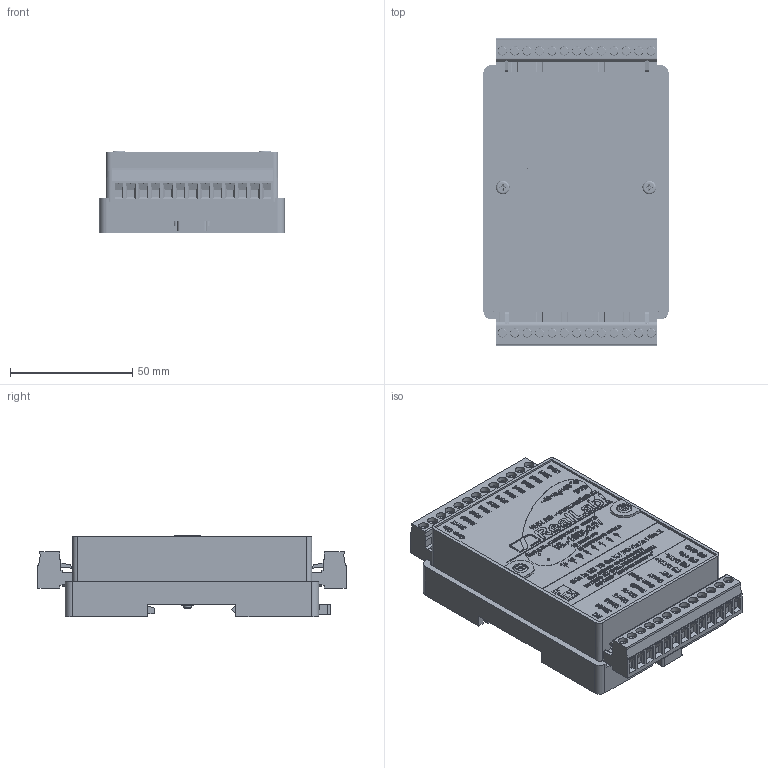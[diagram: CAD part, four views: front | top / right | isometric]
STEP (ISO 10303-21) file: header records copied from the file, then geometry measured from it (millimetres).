
FILE_DESCRIPTION(('STEP AP214'), '1');
FILE_NAME('NL-16DI-24V', '', ('UNSPECIFIED'), ('UNSPECIFIED'), 'C3D Converter', 'C3D Toolkit', '');
FILE_SCHEMA(('AUTOMOTIVE_DESIGN { 1 0 10303 214 3 1 1}'));
Length unit declared in the file: millimetre
Bounding box: 75.8 x 126.21 x 33.5 mm (x, y, z)
Volume: 85068.8 mm3; surface area: 90260.2 mm2
Topology: 2 solids, 2 shells, 8126 faces, 22751 edges, 15269 vertices
Faces by surface type: plane 4005, extrusion 3430, cylinder 504, torus 118, cone 68, bspline 1
Full cylindrical faces by diameter (mm): 1 x2, 1.4 x26, 2.5 x4, 3 x30, 3.38 x2, 3.6 x4, 3.95 x26, 4 x2, 5.6 x2, 6.3 x2, 6.4 x2, 8 x2
Entity records: 389619 total; most frequent: CARTESIAN_POINT 128071, ORIENTED_EDGE 45128, DIRECTION 29999, EDGE_CURVE 22564, VECTOR 16655, VERTEX_POINT 15267, LINE 13225, B_SPLINE_CURVE_WITH_KNOTS 10759
